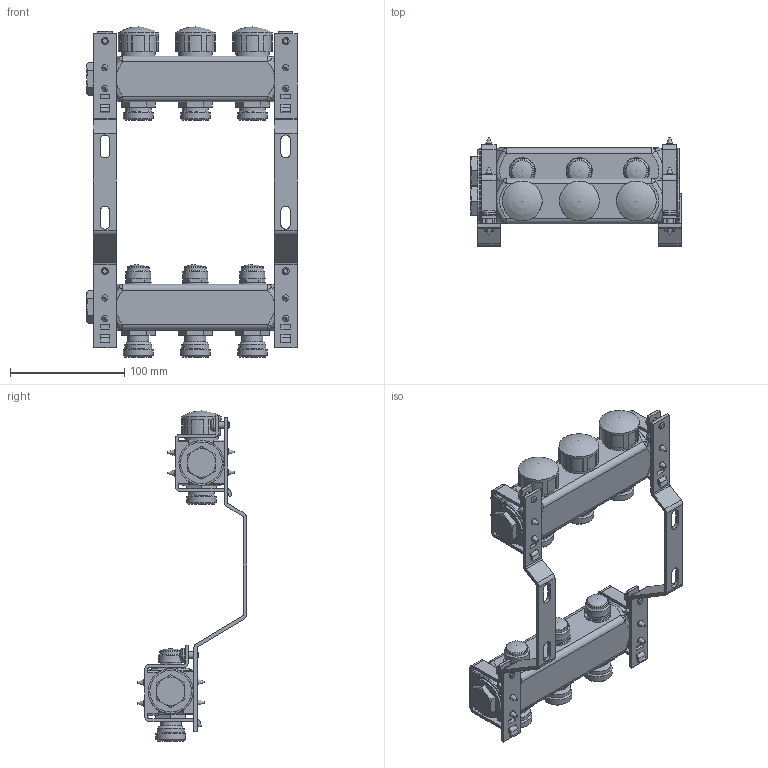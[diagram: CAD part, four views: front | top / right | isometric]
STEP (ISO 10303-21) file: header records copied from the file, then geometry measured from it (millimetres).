
FILE_DESCRIPTION(('STEP AP203'), '1');
FILE_NAME('VTc.582.EMNX.0603', '', ('UNSPECIFIED'), ('UNSPECIFIED'), 'C3D Converter', 'C3D Toolkit', '');
FILE_SCHEMA(('CONFIG_CONTROL_DESIGN'));
Length unit declared in the file: millimetre
Bounding box: 184.2 x 95.7 x 289.2 mm (x, y, z)
Volume: 735109.3 mm3; surface area: 130573.2 mm2
Topology: 1 solids, 1 shells, 875 faces, 2414 edges, 1540 vertices
Faces by surface type: plane 474, cylinder 232, torus 66, cone 61, bspline 36, sphere 6
Full cylindrical faces by diameter (mm): 5.4 x16, 6 x8, 12 x4, 18.4 x3, 19.3 x3, 22.9 x3, 23 x3, 23.5 x3, 25.9 x3, 26 x3, 29.5 x3, 34.9 x3, 35.3 x2, 36.5 x2, 39.3 x4
Entity records: 37794 total; most frequent: CARTESIAN_POINT 16220, ORIENTED_EDGE 4532, DIRECTION 4294, EDGE_CURVE 2266, VERTEX_POINT 1532, AXIS2_PLACEMENT_3D 1524, LINE 1246, VECTOR 1246
